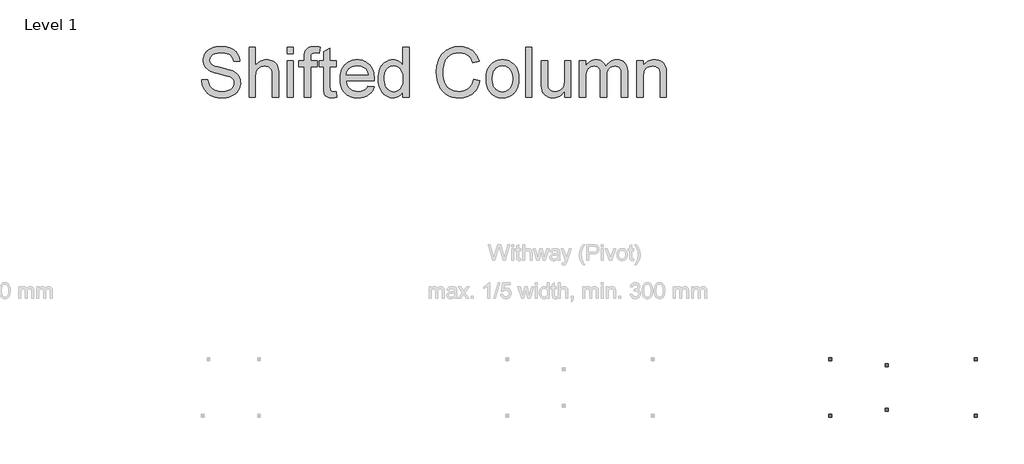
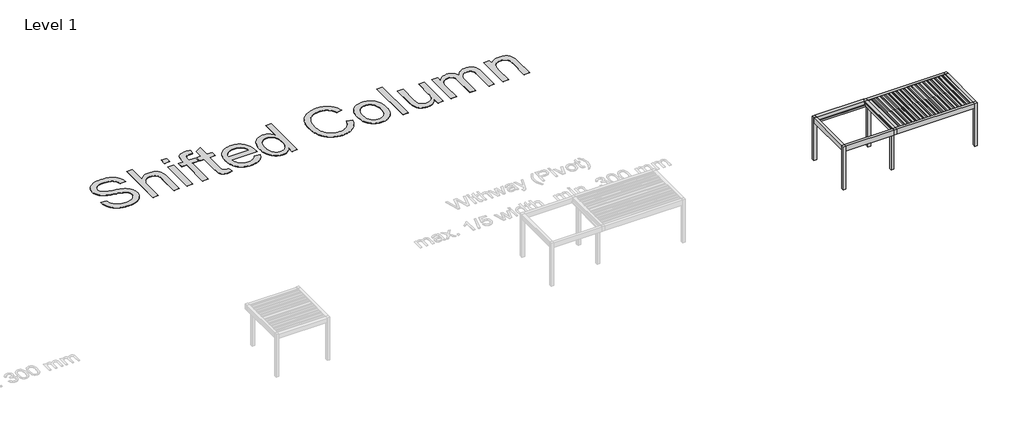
# One storey, part 78 of 80: 2 proxies.
"""IFC4 building model written with IfcOpenShell, lengths in millimetres."""

from ifc_helpers import new_model, si_unit, origin, origin_with_axes, place, context, project, spatial, polyline, outline, extrude, transform, mapped, element, save
from components import generic_models_daa4106b

model = new_model("IFC4")

# Units and contexts
model_context = context("Model", 3, world=origin())
ifc_project = project(units=[si_unit("LENGTHUNIT", "METRE", prefix="MILLI")], contexts=[model_context])

# Site, building, storey
site = spatial("IfcSite", under=ifc_project)
building = spatial("IfcBuilding", under=site)
storey = spatial("IfcBuildingStorey", under=building, Name="Level 1", Elevation=0.0)

# Proxies
placement = place(None, origin())
generic_models_shape = generic_models_daa4106b(model_context)
element("IfcBuildingElementProxy", 1, Name="Renson_Amani_Patio_Cover : Renson_Amani_Patio_Cover", ObjectType="Renson_Amani_Patio_Cover : Renson_Amani_Patio_Cover", at=placement, inside=storey, context=model_context, shape_type="MappedRepresentation", body=[
    mapped(generic_models_shape, transform((317473.165057, 68078.5861401, 0.0), x_axis=(1.0, 0.0, 0.0), y_axis=(0.0, 1.0, 0.0), z_axis=(0.0, 0.0, 1.0))),
])
element("IfcBuildingElementProxy", 2, Name="2500 mm Arial", ObjectType="2500 mm Arial", at=placement, inside=storey, context=model_context, shape_type="SweptSolid", body=[
    extrude(outline(polyline([(284304.1712696, 83605.179626), (284618.0972388, 83605.179626), (284632.4676293, 83513.8031034), (284654.1190175, 83430.9721729), (284683.0514036, 83356.6868346), (284719.2647875, 83290.9470885), (284764.5985792, 83232.4308586), (284820.8921887, 83179.8160691), (284888.1456159, 83133.1027199), (284966.3588609, 83092.2908111), (285052.6578456, 83059.162271), (285144.1684919, 83035.4990281), (285240.8907998, 83021.3010823), (285342.8247693, 83016.5684337), (285432.9941792, 83020.1514511), (285517.7220012, 83030.9005031), (285597.0082354, 83048.8155899), (285670.8528817, 83073.8967113), (285737.4356907, 83105.243323), (285794.936413, 83141.9548804), (285843.3550485, 83184.0313836), (285882.6915972, 83231.4728326), (285913.1376644, 83282.2290516), (285934.8848553, 83334.249865), (285947.9331698, 83387.5352727), (285952.282608, 83442.0852748), (285949.0253195, 83496.4053507), (285939.253454, 83547.1615697), (285922.9670115, 83594.3539319), (285900.165992, 83637.9824373), (285867.2865387, 83678.277012), (285820.7647947, 83715.4675825), (285760.6007601, 83749.5541486), (285686.7944348, 83780.5367104), (285619.5984891, 83802.5138275), (285521.0176107, 83829.8175693), (285229.7010558, 83900.4049272), (285066.1660126, 83940.5462178), (284929.6473035, 83979.7294824), (284820.1449284, 84017.9547209), (284737.6588873, 84055.2219335), (284653.8316097, 84105.2308922), (284581.3856814, 84160.8347229), (284520.3211023, 84222.0334256), (284470.6378724, 84288.8270004), (284432.1443866, 84360.5256684), (284404.6490395, 84436.439651), (284388.1518313, 84516.568948), (284382.6527619, 84600.9135596), (284384.3532581, 84648.0436501), (284389.4547467, 84694.3977396), (284397.9572277, 84739.9758279), (284409.8607011, 84784.7779151), (284425.1651669, 84828.8040013), (284443.8706252, 84872.0540864), (284465.9770758, 84914.5281704), (284491.4845188, 84956.2262533), (284520.2588306, 84996.2909018), (284552.1658875, 85033.8646827), (284587.2056895, 85068.9475959), (284625.3782366, 85101.5396414), (284666.6835289, 85131.6408192), (284711.1215662, 85159.2511294), (284758.6923487, 85184.3705719), (284809.3958763, 85206.9991467), (284916.8863968, 85244.4196434), (285030.2783576, 85271.1485696), (285149.5717587, 85287.1859253), (285274.7666002, 85292.5317106), (285411.3427909, 85286.9368386), (285539.6416367, 85270.1522225), (285600.6870553, 85257.5637605), (285659.6631377, 85242.1778625), (285716.5698838, 85223.9945284), (285771.4072937, 85203.0137584), (285823.6580333, 85179.3217747), (285872.8047686, 85153.0047997), (285918.8474996, 85124.0628333), (285961.7862262, 85092.4958757), (286001.6209485, 85058.3039267), (286038.3516664, 85021.4869864), (286071.9783801, 84982.0450548), (286102.5010894, 84939.9781319), (286129.7952509, 84895.8801937), (286153.7363214, 84850.3452166), (286174.3243008, 84803.3732004), (286191.559189, 84754.9641451), (286205.4409862, 84705.1180508), (286215.9696922, 84653.8349175), (286223.1453072, 84601.1147451), (286226.9678311, 84546.9575337), (285913.0418618, 84546.9575337), (285904.4962697, 84598.6717787), (285892.0419313, 84647.1287353), (285875.6788467, 84692.3284033), (285855.4070159, 84734.2707829), (285831.226439, 84772.9558739), (285803.1371158, 84808.3836765), (285771.1390464, 84840.5541906), (285735.2322308, 84869.4674161), (285695.1005205, 84895.0467111), (285650.4277667, 84917.2154334), (285601.2139696, 84935.9735831), (285547.4591291, 84951.32116), (285489.1632453, 84963.2581644), (285426.326318, 84971.784596), (285358.9483474, 84976.900455), (285287.0293334, 84978.6057413), (285212.5428096, 84976.9196155), (285143.287108, 84971.8612381), (285079.2622284, 84963.430609), (285020.468171, 84951.6277284), (284966.9049358, 84936.4525961), (284918.5725226, 84917.9052121), (284875.4709315, 84895.9855766), (284837.6001626, 84870.6936894), (284804.5482646, 84843.0163174), (284775.9032863, 84813.9402275), (284751.6652278, 84783.4654195), (284731.834089, 84751.5918935), (284716.4098699, 84718.3196495), (284705.3925706, 84683.6486875), (284698.782191, 84647.5790075), (284696.5787311, 84610.1106095), (284698.1403136, 84577.73891), (284702.8250608, 84546.8425706), (284710.632973, 84517.4215912), (284721.56405, 84489.4759719), (284735.6182918, 84463.0057127), (284752.7956985, 84438.0108136), (284773.0962701, 84414.4912746), (284796.5200065, 84392.4470957), (284825.9888871, 84370.9298311), (284865.3445964, 84349.2976033), (284914.5871343, 84327.5504125), (284973.7165008, 84305.6882585), (285121.6357197, 84261.6190612), (285309.1022531, 84217.0900113), (285499.2512593, 84173.6722717), (285655.2178969, 84132.9370049), (285777.0021657, 84094.8842111), (285864.6040658, 84059.5138901), (285960.8473607, 84005.9027535), (286003.8962603, 83976.5967372), (286043.563328, 83945.6237557), (286079.8485639, 83912.9838089), (286112.7519679, 83878.6768968), (286142.27354, 83842.7030194), (286168.4132802, 83805.0621767), (286191.3340529, 83765.8501714), (286211.1987226, 83725.1628059), (286228.0072893, 83683.0000804), (286241.7597529, 83639.3619947), (286252.4561136, 83594.248549), (286260.0963711, 83547.6597432), (286266.2085772, 83450.0560514), (286264.4505994, 83400.5979576), (286259.1766662, 83351.8583834), (286250.3867773, 83303.8373287), (286238.080933, 83256.5347935), (286222.2591331, 83209.9507778), (286202.9213777, 83164.0852817), (286180.0676668, 83118.9383051), (286153.6980004, 83074.509848), (286124.0279342, 83031.666924), (286091.2730243, 82991.2765466), (286055.4332705, 82953.3387158), (286016.508673, 82917.8534317), (285974.4992316, 82884.8206942), (285929.4049464, 82854.2405034), (285881.2258174, 82826.1128592), (285829.9618446, 82800.4377616), (285776.3363376, 82777.5169888), (285721.0726061, 82757.6523191), (285664.1706501, 82740.8437524), (285605.6304696, 82727.0912888), (285545.4520646, 82716.3949282), (285483.6354351, 82708.7546706), (285355.0875025, 82702.6424645), (285273.0948448, 82704.2902693), (285194.5031795, 82709.2336836), (285119.3125066, 82717.4727075), (285047.5228261, 82729.0073408), (284979.134138, 82743.8375838), (284914.1464423, 82761.9634362), (284852.5597391, 82783.3848983), (284794.3740282, 82808.1019698), (284739.4072848, 82836.1338114), (284687.4774838, 82867.4995836), (284638.5846255, 82902.1992864), (284592.7287096, 82940.2329197), (284549.9097362, 82981.6004837), (284510.1277053, 83026.3019782), (284473.382617, 83074.3374033), (284439.6744712, 83125.706759), (284409.3912684, 83179.6053034), (284382.9210092, 83235.2282946), (284360.2636936, 83292.5757327), (284341.4193216, 83351.6476177), (284326.3878932, 83412.4439495), (284315.1694084, 83474.9647281), (284307.7638672, 83539.2099537), (284304.1712696, 83605.179626)])), origin_with_axes(), (0.0, 0.0, 1.0), 5.0),
    extrude(outline(polyline([(286697.8567849, 82741.8832107), (286697.8567849, 85253.2909644), (287011.7827541, 85253.2909644), (287011.7827541, 84329.9071565), (287067.6644124, 84399.1724384), (287127.090767, 84459.2023494), (287190.0618179, 84509.9968895), (287256.5775651, 84551.5560586), (287326.6380086, 84583.8798568), (287400.2431484, 84606.9682841), (287477.3929845, 84620.8213405), (287558.0875169, 84625.439026), (287656.2277034, 84620.3998091), (287747.7000286, 84605.2821583), (287832.5044927, 84580.0860738), (287910.6410957, 84544.8115554), (287980.1171433, 84500.6465554), (288010.8601986, 84475.675607), (288038.9399415, 84448.7790262), (288064.356372, 84419.9568131), (288087.1094902, 84389.2089677), (288107.199296, 84356.53549), (288124.6257895, 84321.93638), (288139.7146995, 84284.3721794), (288152.7917548, 84242.80343), (288172.9103014, 84147.6522847), (288184.9814293, 84036.4829443), (288189.0051387, 83909.2954087), (288189.0051387, 82741.8832107), (287875.0791695, 82741.8832107), (287875.0791695, 83876.7991658), (287873.517587, 83931.7323783), (287868.8328397, 83982.7951657), (287861.0249276, 84029.9875278), (287850.0938506, 84073.3094649), (287836.0396088, 84112.7609768), (287818.8622021, 84148.3420635), (287798.5616305, 84180.052725), (287775.1378941, 84207.8929615), (287748.8496599, 84232.1789213), (287719.9555948, 84253.2267532), (287688.455699, 84271.036457), (287654.3499723, 84285.6080329), (287617.6384149, 84296.9414809), (287578.3210267, 84305.0368008), (287536.3978076, 84309.8939928), (287491.8687578, 84311.5130568), (287424.519528, 84307.1444581), (287359.2013133, 84294.038662), (287295.9141138, 84272.1956685), (287234.6579295, 84241.6154777), (287178.7475305, 84203.5626838), (287131.4976867, 84159.3018813), (287092.9083982, 84108.83307), (287062.9796651, 84052.1562502), (287040.5810165, 83986.6655908), (287024.5819819, 83909.7552612), (287014.982561, 83821.4252613), (287011.7827541, 83721.6755912), (287011.7827541, 82741.8832107), (286697.8567849, 82741.8832107)])), origin_with_axes(), (0.0, 0.0, 1.0), 5.0),
    extrude(outline(polyline([(288620.6533463, 84939.3649952), (288620.6533463, 85253.2909644), (288934.5793156, 85253.2909644), (288934.5793156, 84939.3649952), (288620.6533463, 84939.3649952)])), origin_with_axes(), (0.0, 0.0, 1.0), 5.0),
    extrude(outline(polyline([(288620.6533463, 82741.8832107), (288620.6533463, 84586.1982798), (288934.5793156, 84586.1982798), (288934.5793156, 82741.8832107), (288620.6533463, 82741.8832107)])), origin_with_axes(), (0.0, 0.0, 1.0), 5.0),
    extrude(outline(polyline([(289483.9497617, 82741.8832107), (289483.9497617, 84272.2723106), (289209.2645386, 84272.2723106), (289209.2645386, 84586.1982798), (289483.9497617, 84586.1982798), (289483.9497617, 84771.9786874), (289486.0190979, 84854.5605311), (289492.2271066, 84925.7227045), (289502.5737877, 84985.4652077), (289517.0591413, 85033.7880406), (289544.3437226, 85088.7020926), (289580.2122171, 85138.1745568), (289624.6646248, 85182.2054331), (289677.7009458, 85220.7947215), (289707.7254816, 85237.6080783), (289740.4708112, 85252.1796542), (289814.1238524, 85274.5974633), (289898.6600692, 85288.0481487), (289994.0794617, 85292.5317106), (290060.489826, 85290.3857323), (290130.349084, 85283.9477973), (290203.6572358, 85273.2179058), (290280.4142812, 85258.1960577), (290234.4290319, 84963.8904615), (290141.3855439, 84974.9269214), (290053.5537176, 84978.6057413), (289988.7719975, 84975.3484528), (289934.2219954, 84965.5765874), (289889.9037113, 84949.2901449), (289855.8171451, 84926.4891254), (289830.4677764, 84894.7976243), (289812.3610845, 84851.8397372), (289801.4970693, 84797.6154639), (289797.8757309, 84732.1248046), (289797.8757309, 84586.1982798), (290151.0424463, 84586.1982798), (290151.0424463, 84272.2723106), (289797.8757309, 84272.2723106), (289797.8757309, 82741.8832107), (289483.9497617, 82741.8832107)])), origin_with_axes(), (0.0, 0.0, 1.0), 5.0),
    extrude(outline(polyline([(291092.8203539, 83003.6925639), (291132.0611001, 82732.6861608), (291007.7476425, 82710.1533886), (290950.7642543, 82704.5201955), (290897.2297598, 82702.6424645), (290817.1004628, 82705.899753), (290746.551426, 82715.6716185), (290685.5826495, 82731.958061), (290634.1941333, 82754.7590805), (290591.0446409, 82782.8484037), (290554.792936, 82814.9997572), (290525.4390185, 82851.2131411), (290502.9828883, 82891.4885554), (290486.3515565, 82945.4829024), (290474.4720337, 83022.8530845), (290467.34432, 83123.5991017), (290464.9684155, 83247.720954), (290464.9684155, 84272.2723106), (290229.5239386, 84272.2723106), (290229.5239386, 84586.1982798), (290464.9684155, 84586.1982798), (290464.9684155, 85034.4011773), (290778.8943847, 85218.9553115), (290778.8943847, 84586.1982798), (291092.8203539, 84586.1982798), (291092.8203539, 84272.2723106), (290778.8943847, 84272.2723106), (290778.8943847, 83256.9180039), (290783.0330572, 83153.6044769), (290788.2063977, 83118.7323295), (290795.4490745, 83095.049926), (290805.0101743, 83077.9012601), (290817.1387838, 83062.6303252), (290849.0985321, 83037.7216485), (290869.6960918, 83028.467117), (290894.3940028, 83021.8567374), (290956.0908791, 83016.5684337), (291016.0249874, 83013.3494663), (291092.8203539, 83003.6925639)])), origin_with_axes(), (0.0, 0.0, 1.0), 5.0),
    extrude(outline(polyline([(292698.0121262, 83291.2536568), (293005.8067288, 83252.0129107), (292984.2750938, 83188.5436862), (292958.6143667, 83128.7341212), (292928.8245473, 83072.5842157), (292894.9056357, 83020.0939695), (292856.857632, 82971.2633828), (292814.680536, 82926.0924555), (292768.3743479, 82884.5811877), (292717.9390676, 82846.7295793), (292663.6237819, 82812.9591618), (292605.6775775, 82783.6914666), (292544.1004545, 82758.9264937), (292478.8924128, 82738.6642432), (292410.0534525, 82722.904715), (292337.5835735, 82711.6479092), (292261.4827759, 82704.8938257), (292181.7510597, 82702.6424645), (292081.7044014, 82706.5272601), (291986.9652074, 82718.1816467), (291897.5334776, 82737.6056245), (291813.409212, 82764.7991933), (291734.5924106, 82799.7623532), (291661.0830734, 82842.4951042), (291592.8812003, 82892.9974464), (291529.9867915, 82951.2693796), (291473.5111571, 83016.5540633), (291424.5656073, 83088.0946571), (291383.1501421, 83165.8911608), (291349.2647614, 83249.9435744), (291322.9094653, 83340.2518981), (291304.0842539, 83436.8161317), (291292.789127, 83539.6362752), (291289.0240847, 83648.7123288), (291292.827448, 83761.5007332), (291304.237538, 83867.7937211), (291323.2543547, 83967.5912926), (291349.8778981, 84060.8934475), (291384.1081681, 84147.700186), (291425.9451648, 84228.0115081), (291475.3888881, 84301.8274136), (291532.4393382, 84369.1479027), (291595.554093, 84429.2161347), (291663.1907306, 84481.2752691), (291735.3492511, 84525.3253059), (291812.0296545, 84561.3662452), (291893.2319407, 84589.3980868), (291978.9561098, 84609.4208308), (292069.2021618, 84621.4344772), (292163.9700966, 84625.439026), (292255.6388171, 84621.4440574), (292343.0251614, 84609.4591518), (292426.1291293, 84589.4843091), (292504.9507208, 84561.5195293), (292579.489936, 84525.5648124), (292649.7467749, 84481.6201585), (292715.7212374, 84429.6855675), (292777.4133235, 84369.7610393), (292833.2422904, 84302.5938344), (292881.627395, 84228.9312131), (292922.5686373, 84148.7731752), (292956.0660174, 84062.1197209), (292982.1195353, 83968.9708501), (293000.7291909, 83869.3265628), (293011.8949843, 83763.186859), (293015.6169154, 83650.5517388), (293013.7775054, 83565.9388799), (291602.9500539, 83565.9388799), (291609.7951499, 83501.3583452), (291621.1333879, 83440.6673963), (291636.9647681, 83383.866033), (291657.2892903, 83330.9542555), (291682.1069546, 83281.9320635), (291711.4177609, 83236.7994573), (291745.2217094, 83195.5564368), (291783.5187999, 83158.2030019), (291825.3126854, 83125.0074), (291869.6070189, 83096.2378783), (291916.4018002, 83071.8944369), (291965.6970296, 83051.9770758), (292017.4927068, 83036.4857949), (292071.788832, 83025.4205942), (292128.5854052, 83018.7814739), (292187.8824262, 83016.5684337), (292274.7179055, 83020.6687851), (292354.9621657, 83032.9698394), (292428.6152068, 83053.4715964), (292495.6770289, 83082.1740562), (292556.1476318, 83119.8436397), (292610.0270157, 83167.2467676), (292657.3151805, 83224.38344), (292698.0121262, 83291.2536568)]), holes=[polyline([(291602.9500539, 83879.8648491), (292701.6909462, 83879.8648491), (292685.5577878, 83968.6930225), (292673.6686848, 84008.681029), (292659.2312326, 84045.7183152), (292642.2454311, 84079.8048814), (292622.7112803, 84110.9407273), (292600.6287804, 84139.1258531), (292575.9979312, 84164.3602587), (292534.6686883, 84198.8491957), (292490.3887252, 84228.7396078), (292443.158042, 84254.031495), (292392.9766386, 84274.7248572), (292339.844515, 84290.8196945), (292283.7616712, 84302.3160069), (292224.7281073, 84309.2137943), (292162.7438232, 84311.5130568), (292106.4071026, 84309.6784369), (292052.3600642, 84304.1745774), (292000.6027079, 84295.0014781), (291951.1350339, 84282.1591392), (291903.9570421, 84265.6475606), (291859.0687325, 84245.4667423), (291816.4701051, 84221.6166843), (291776.16116, 84194.0973866), (291739.1861454, 84163.5028254), (291706.5893097, 84130.4269767), (291678.3706531, 84094.8698407), (291654.5301753, 84056.8314172), (291635.0678765, 84016.3117063), (291619.9837567, 83973.310708), (291609.2778158, 83927.8284222), (291602.9500539, 83879.8648491)])]), origin_with_axes(), (0.0, 0.0, 1.0), 5.0),
    extrude(outline(polyline([(294467.524523, 82741.8832107), (294467.524523, 83038.0282168), (294423.0433745, 82959.4221811), (294373.5996511, 82891.2969502), (294319.1933529, 82833.652524), (294259.8244799, 82786.4889026), (294195.4930321, 82749.8060859), (294126.1990094, 82723.604074), (294051.9424119, 82707.8828669), (293972.7232395, 82702.6424645), (293920.3766973, 82704.5393561), (293869.1031442, 82710.2300307), (293818.9025803, 82719.7144884), (293769.7750055, 82732.9927291), (293721.7204199, 82750.064753), (293674.7388234, 82770.9305599), (293628.8302161, 82795.5901499), (293583.9945979, 82824.0435229), (293540.9409082, 82855.8930983), (293500.3780861, 82890.7412951), (293462.3061317, 82928.5881134), (293426.725045, 82969.4335531), (293393.634826, 83013.2776143), (293363.0354746, 83060.120297), (293334.9269909, 83109.9616012), (293309.3093749, 83162.8015268), (293286.4604541, 83218.1514807), (293266.6580561, 83275.5228694), (293249.9021808, 83334.9156931), (293236.1928283, 83396.3299517), (293225.5299986, 83459.7656452), (293217.9136917, 83525.2227736), (293211.8206461, 83662.2013353), (293217.4346787, 83796.6698687), (293234.2767763, 83924.7771093), (293262.3469389, 84046.5230571), (293301.6451666, 84161.9077121), (293325.5000148, 84216.3714918), (293352.1522989, 84267.5588225), (293381.602019, 84315.4697043), (293413.8491752, 84360.104137), (293448.8937673, 84401.4621206), (293486.7357955, 84439.5436553), (293527.3752596, 84474.3487409), (293570.8121598, 84505.8773775), (293616.3040258, 84533.8996389), (293663.1083874, 84558.1855987), (293711.2252447, 84578.7352571), (293760.6545977, 84595.5486139), (293811.3964463, 84608.6256692), (293863.4507906, 84617.966423), (293916.8176306, 84623.5708752), (293971.4969662, 84625.439026), (294050.5149531, 84620.0932407), (294125.0876992, 84604.055885), (294195.2152045, 84577.3269588), (294260.8974691, 84539.9064621), (294321.4063931, 84493.9403732), (294376.0138767, 84441.5746705), (294424.71992, 84382.8093538), (294467.524523, 84317.6444233), (294467.524523, 85253.2909644), (294781.4504922, 85253.2909644), (294781.4504922, 82741.8832107), (294467.524523, 82741.8832107)]), holes=[polyline([(293525.7466154, 83663.4276086), (293527.9596555, 83584.749721), (293534.5987759, 83511.1972726), (293545.6639765, 83442.7702634), (293561.1552574, 83379.4686936), (293581.0726185, 83321.2925629), (293605.4160599, 83268.2418716), (293634.1855816, 83220.3166195), (293667.3811835, 83177.5168066), (293703.5849871, 83139.7945317), (293741.379114, 83107.1018935), (293780.7635641, 83079.4388919), (293821.7383373, 83056.805527), (293864.3034338, 83039.2017987), (293908.4588535, 83026.627707), (293954.2045964, 83019.0832521), (294001.5406625, 83016.5684337), (294049.2168278, 83018.9682889), (294095.0631634, 83026.1678546), (294139.0796693, 83038.1671306), (294181.2663455, 83054.966117), (294221.623192, 83076.5648138), (294260.1502088, 83102.963221), (294296.8473958, 83134.1613387), (294331.7147531, 83170.1591667), (294363.5451679, 83211.0908288), (294391.1315275, 83257.0904486), (294414.4738317, 83308.1580261), (294433.5720805, 83364.2935613), (294448.4262741, 83425.4970541), (294459.0364124, 83491.7685047), (294465.4024954, 83563.107913), (294467.524523, 83639.5152789), (294465.3641743, 83723.3904578), (294458.8831282, 83801.4983199), (294448.0813848, 83873.8388654), (294432.9589439, 83940.4120941), (294413.5158056, 84001.2180062), (294389.75197, 84056.2566016), (294361.6674369, 84105.5278802), (294329.2622065, 84149.0318422), (294293.6954902, 84187.1133769), (294256.1264994, 84220.1173736), (294216.5552343, 84248.0438323), (294174.9816948, 84270.8927531), (294131.4058808, 84288.664136), (294085.8277925, 84301.3579809), (294038.2474298, 84308.9742878), (293988.6647926, 84311.5130568), (293940.1790953, 84309.0748805), (293893.7435737, 84301.7603518), (293849.3582277, 84289.5694706), (293807.0230575, 84272.5022369), (293766.738063, 84250.5586507), (293728.5032442, 84223.738712), (293692.318601, 84192.0424208), (293658.1841336, 84155.4697771), (293627.1440903, 84113.6471508), (293600.2427194, 84066.2009117), (293577.4800209, 84013.1310599), (293558.8559949, 83954.4375952), (293544.3706414, 83890.1205177), (293534.0239603, 83820.1798275), (293527.8159516, 83744.6155244), (293525.7466154, 83663.4276086)])]), origin_with_axes(), (0.0, 0.0, 1.0), 5.0),
    extrude(outline(polyline([(298038.4324229, 83634.6101856), (298352.3583921, 83553.6761467), (298323.8762782, 83452.9828209), (298290.2399844, 83358.4496025), (298251.4495104, 83270.0764914), (298207.5048565, 83187.8634877), (298158.4060225, 83111.8105914), (298104.1530085, 83041.9178025), (298044.7458144, 82978.1851209), (297980.1844403, 82920.6125467), (297911.1682452, 82869.5258087), (297838.396588, 82825.2506357), (297761.8694688, 82787.7870279), (297681.5868875, 82757.1349851), (297597.5488443, 82733.2945073), (297509.755339, 82716.2655947), (297418.2063716, 82706.0482471), (297322.9019422, 82702.6424645), (297224.843188, 82705.2195545), (297131.4691811, 82712.9508246), (297042.7799215, 82725.8362747), (296958.7754091, 82743.8759048), (296879.455644, 82767.069715), (296804.8206262, 82795.4177052), (296734.8703557, 82828.9198754), (296669.6048325, 82867.5762257), (296608.5594139, 82911.1185087), (296551.2694574, 82959.2784772), (296497.7349629, 83012.0561311), (296447.9559304, 83069.4514705), (296401.9323599, 83131.4644954), (296359.6642515, 83198.0952057), (296321.1516052, 83269.3436015), (296286.3944208, 83345.2096828), (296255.5699334, 83424.1031263), (296228.8553775, 83504.4336088), (296206.2507534, 83586.2011304), (296187.7560609, 83669.405691), (296173.3713001, 83754.0472907), (296163.0964709, 83840.1259294), (296156.9315734, 83927.6416072), (296154.8766076, 84016.594324), (296157.1998207, 84112.8280386), (296164.16946, 84205.9385884), (296175.7855256, 84295.9259733), (296192.0480175, 84382.7901933), (296212.9569356, 84466.5312485), (296238.5122799, 84547.1491389), (296268.7140505, 84624.6438644), (296303.5622473, 84699.015425), (296342.6928204, 84769.6363137), (296385.7417201, 84835.8790235), (296432.7089461, 84897.7435544), (296483.5944987, 84955.2299062), (296538.3983777, 85008.3380792), (296597.1205831, 85057.0680731), (296659.761115, 85101.4198881), (296726.3199734, 85141.3935242), (296795.7002184, 85176.8165366), (296866.8049103, 85207.5164807), (296939.634049, 85233.4933565), (297014.1876346, 85254.747164), (297090.4656671, 85271.2779031), (297168.4681464, 85283.0855739), (297248.1950725, 85290.1701764), (297329.6464455, 85292.5317106), (297421.2864253, 85289.4756075), (297509.1996839, 85280.3072984), (297593.3862212, 85265.0267833), (297673.8460372, 85243.634062), (297750.579132, 85216.1291347), (297823.5855056, 85182.5120014), (297892.8651579, 85142.782662), (297958.4180889, 85096.9411165), (298019.6886436, 85045.5526003), (298076.1211669, 84989.1823487), (298127.7156587, 84927.8303618), (298174.472119, 84861.4966396), (298216.3905479, 84790.1811819), (298253.4709454, 84713.883989), (298285.7133114, 84632.6050607), (298313.1176459, 84546.344397), (297999.1916767, 84471.5417247), (297975.720039, 84535.5139128), (297949.7575336, 84594.9929588), (297921.3041605, 84649.9788627), (297890.3599198, 84700.4716246), (297856.9248114, 84746.4712444), (297820.9988353, 84787.9777221), (297782.5819915, 84824.9910577), (297741.6742801, 84857.5112513), (297698.1607379, 84885.8927724), (297651.9264017, 84910.4900907), (297602.9712716, 84931.3032062), (297551.2953476, 84948.3321188), (297496.8986297, 84961.5768287), (297439.7811178, 84971.0373357), (297379.942812, 84976.7136399), (297317.3837123, 84978.6057413), (297245.4646983, 84976.5076643), (297176.553886, 84970.2134333), (297110.6512755, 84959.7230483), (297047.7568667, 84945.0365093), (296987.8706596, 84926.1538163), (296930.9926543, 84903.0749692), (296877.1228506, 84875.7999682), (296826.2612488, 84844.3288131), (296778.7383676, 84809.322542), (296734.8847261, 84771.4421928), (296694.7003243, 84730.6877655), (296658.1851622, 84687.0592602), (296625.3392398, 84640.5566767), (296596.1625571, 84591.1800152), (296570.6551141, 84538.9292756), (296548.8169107, 84483.8044578), (296513.8106396, 84369.7993604), (296488.8061603, 84254.031495), (296473.8034727, 84136.5008618), (296468.8025768, 84017.2074606), (296474.7231776, 83867.2955476), (296482.1239287, 83796.018411), (296492.4849802, 83727.1938211), (296505.8063322, 83660.8217778), (296522.0879845, 83596.9022811), (296541.3299373, 83535.4353311), (296563.5321905, 83476.4209277), (296588.8623987, 83420.4578372), (296617.4882165, 83368.1448259), (296649.4096438, 83319.4818938), (296684.6266806, 83274.4690408), (296723.139327, 83233.106267), (296764.9475829, 83195.3935723), (296810.0514483, 83161.3309569), (296858.4509233, 83130.9184206), (296909.010747, 83104.1176424), (296960.5956586, 83080.8903013), (297013.205658, 83061.2363973), (297066.8407452, 83045.1559304), (297121.5009203, 83032.6489006), (297177.1861832, 83023.7153079), (297233.896534, 83018.3551523), (297291.6319727, 83016.5684337), (297361.2373538, 83019.0018199), (297428.1123608, 83026.3019782), (297492.2569935, 83038.4689088), (297553.6712521, 83055.5026116), (297612.3551366, 83077.4030866), (297668.3086468, 83104.1703338), (297721.5317828, 83135.8043533), (297772.0245447, 83172.305145), (297819.1737957, 83213.5960669), (297862.3663992, 83259.6004768), (297901.6023553, 83310.3183748), (297936.8816638, 83365.7497608), (297968.2043248, 83425.8946349), (297995.5703383, 83490.7529971), (298018.9797043, 83560.3248473), (298038.4324229, 83634.6101856)])), origin_with_axes(), (0.0, 0.0, 1.0), 5.0),
    extrude(outline(polyline([(298666.2843613, 83664.0407452), (298670.5284166, 83787.5973622), (298683.2605825, 83902.8957948), (298704.4808591, 84009.9360431), (298734.1892462, 84108.7181069), (298772.385744, 84199.2419864), (298819.0703524, 84281.5076815), (298874.2430714, 84355.5151923), (298937.9039011, 84421.2645187), (298996.1710442, 84469.1179188), (299057.5421916, 84510.5908656), (299122.0173433, 84545.6833591), (299189.5964994, 84574.3953991), (299260.2796599, 84596.7269859), (299334.0668246, 84612.6781193), (299410.9579937, 84622.2487993), (299490.9531672, 84625.439026), (299579.6232663, 84621.5542304), (299664.1451127, 84609.8998438), (299744.5187064, 84590.475866), (299820.7440474, 84563.2822972), (299892.8211357, 84528.3191373), (299960.7499713, 84485.5863862), (300024.5305542, 84435.0840441), (300084.1628844, 84376.8121109), (300138.1237005, 84311.6902916), (300184.8897411, 84240.6382911), (300224.4610062, 84163.6561096), (300256.8374959, 84080.7437469), (300282.01921, 83991.9012031), (300300.0061487, 83897.1284781), (300310.798312, 83796.4255721), (300314.3956997, 83689.7924849), (300312.8053765, 83603.4072779), (300308.0344069, 83521.7547194), (300300.0827908, 83444.8348095), (300288.9505284, 83372.6475482), (300274.6376195, 83305.1929355), (300257.1440642, 83242.4709714), (300236.4698625, 83184.4816559), (300212.6150144, 83131.2249889), (300185.7184336, 83081.7573149), (300155.919034, 83035.1349782), (300123.2168155, 82991.3579788), (300087.6117781, 82950.4263167), (300049.1039218, 82912.3399919), (300007.6932467, 82877.0990044), (299963.3797528, 82844.7033542), (299916.1634399, 82815.1530414), (299866.9352724, 82788.7833749), (299816.5862145, 82765.929664), (299765.116266, 82746.5919086), (299712.5254272, 82730.7701087), (299658.8136978, 82718.4642644), (299603.9810781, 82709.6743756), (299548.0275678, 82704.4004423), (299490.9531672, 82702.6424645), (299400.88435, 82706.5128897), (299315.2320329, 82718.1241652), (299233.9962158, 82737.4762909), (299157.1768986, 82764.569267), (299084.7740815, 82799.4030935), (299016.7877643, 82841.9777702), (298953.2179472, 82892.2932972), (298894.06463, 82950.3496746), (298840.6786295, 83015.6870498), (298794.4107624, 83087.8455703), (298755.2610288, 83166.8252361), (298723.2294285, 83252.6260473), (298698.3159616, 83345.2480038), (298680.5206281, 83444.6911056), (298669.843428, 83550.9553528), (298666.2843613, 83664.0407452)]), holes=[polyline([(298980.2103305, 83664.6538819), (298982.4808522, 83585.966414), (298989.2924173, 83512.3852248), (299000.6450257, 83443.9103144), (299016.5386775, 83380.5416827), (299036.9733727, 83322.2793298), (299061.9491113, 83269.1232555), (299091.4658933, 83221.07346), (299125.5237186, 83178.1299433), (299163.0208574, 83140.2639645), (299202.8555797, 83107.4467829), (299245.0278855, 83079.6783984), (299289.5377748, 83056.9588111), (299336.3852476, 83039.288021), (299385.570304, 83026.6660281), (299437.0929438, 83019.0928323), (299490.9531672, 83016.5684337), (299544.5259827, 83019.1072027), (299595.7995358, 83026.7235096), (299644.7738264, 83039.4173545), (299691.4488545, 83057.1887374), (299735.8246202, 83080.0376582), (299777.9011234, 83107.9641169), (299817.6783641, 83140.9681136), (299855.1563424, 83179.0496483), (299889.2141677, 83222.3332643), (299918.7309497, 83270.943505), (299943.7066883, 83324.8803704), (299964.1413835, 83384.1438606), (299980.0350353, 83448.7339755), (299991.3876437, 83518.6507151), (299998.1992088, 83593.8940794), (300000.4697305, 83674.4640684), (299998.1848384, 83750.5648661), (299991.3301622, 83821.9042743), (299979.9057018, 83888.4822932), (299963.9114572, 83950.2989227), (299943.3474285, 84007.3541629), (299918.2136156, 84059.6480137), (299888.5100186, 84107.1804751), (299854.2366374, 84149.9515472), (299816.5718441, 84187.817526), (299776.6940106, 84220.6347076), (299734.603137, 84248.4030921), (299690.2992233, 84271.1226794), (299643.7822695, 84288.7934695), (299595.0522755, 84301.4154624), (299544.1092414, 84308.9886582), (299490.9531672, 84311.5130568), (299437.0929438, 84308.9982384), (299385.570304, 84301.4537835), (299336.3852476, 84288.8796918), (299289.5377748, 84271.2759635), (299245.0278855, 84248.6425986), (299202.8555797, 84220.979597), (299163.0208574, 84188.2869588), (299125.5237186, 84150.5646839), (299091.4658933, 84107.764871), (299061.9491113, 84059.8396189), (299036.9733727, 84006.7889276), (299016.5386775, 83948.6127969), (299000.6450257, 83885.3112271), (298989.2924173, 83816.8842179), (298982.4808522, 83743.3317695), (298980.2103305, 83664.6538819)])]), origin_with_axes(), (0.0, 0.0, 1.0), 5.0),
    extrude(outline(polyline([(300667.5624151, 82741.8832107), (300667.5624151, 85253.2909644), (300981.4883843, 85253.2909644), (300981.4883843, 82741.8832107), (300667.5624151, 82741.8832107)])), origin_with_axes(), (0.0, 0.0, 1.0), 5.0),
    extrude(outline(polyline([(302629.5997227, 82741.8832107), (302629.5997227, 83058.8748632), (302575.1455232, 82975.3828947), (302516.0161567, 82903.0231888), (302452.2116231, 82841.7957452), (302383.7319226, 82791.7005642), (302310.577055, 82752.7376456), (302232.7470204, 82724.9069894), (302150.2418188, 82708.2085958), (302063.0614501, 82702.6424645), (301985.2888971, 82706.5512107), (301910.1604959, 82718.2774493), (301837.6762465, 82737.8211803), (301767.836149, 82765.1824037), (301703.7250471, 82798.4450674), (301648.4277847, 82835.6931194), (301601.9443618, 82876.9265597), (301564.2747783, 82922.1453883), (301533.4838217, 82972.0010629), (301507.6362795, 83027.1450411), (301486.7321515, 83087.577323), (301470.7714379, 83153.2979086), (301462.7240192, 83206.0276613), (301456.975863, 83272.2464204), (301452.3773381, 83445.1509581), (301452.3773381, 84586.1982798), (301766.3033073, 84586.1982798), (301766.3033073, 83592.9168928), (301771.0551164, 83394.2606155), (301776.9948778, 83323.9031839), (301785.3105437, 83272.859557), (301804.1070144, 83216.2785398), (301831.0658669, 83166.0971364), (301866.1871011, 83122.3153468), (301909.4707171, 83084.9331712), (301959.6137995, 83055.0235985), (302015.3134328, 83033.6596181), (302076.5696171, 83020.8412298), (302143.3823524, 83016.5684337), (302212.1877818, 83020.9370324), (302278.8089119, 83034.0428285), (302343.2457426, 83055.885822), (302405.4982739, 83086.4660128), (302462.1942543, 83124.5762883), (302509.9614322, 83169.0095355), (302548.7998074, 83219.7657545), (302578.70938, 83276.8449453), (302600.9739049, 83343.8876068), (302616.877137, 83424.534238), (302626.4190763, 83518.7848387), (302629.5997227, 83626.6394091), (302629.5997227, 84586.1982798), (302943.5256919, 84586.1982798), (302943.5256919, 82741.8832107), (302629.5997227, 82741.8832107)])), origin_with_axes(), (0.0, 0.0, 1.0), 5.0),
    extrude(outline(polyline([(303375.1738996, 82741.8832107), (303375.1738996, 84586.1982798), (303689.0998688, 84586.1982798), (303689.0998688, 84282.6956338), (303732.9391399, 84356.1762302), (303783.5229142, 84422.1075816), (303840.8511918, 84480.4896878), (303904.9239726, 84531.3225489), (303974.7065886, 84572.4985076), (304049.1643716, 84601.9099067), (304128.2973216, 84619.5567462), (304212.1054386, 84625.439026), (304303.731048, 84619.441783), (304346.2961445, 84611.9452294), (304386.6961021, 84601.4500542), (304424.930921, 84587.9562576), (304461.000601, 84571.4638395), (304494.9051421, 84551.9727999), (304526.6445445, 84529.4831389), (304556.1709067, 84504.2918445), (304583.4363275, 84476.6959047), (304608.4408068, 84446.6953196), (304631.1843448, 84414.2900892), (304669.8885963, 84342.2656923), (304699.5490822, 84260.6227141), (304754.750542, 84346.1265372), (304813.9757111, 84420.2298505), (304877.2245896, 84482.9326541), (304944.4971773, 84534.234948), (305015.7934744, 84574.1367321), (305091.1134808, 84602.6380065), (305170.4571965, 84619.7387711), (305253.8246216, 84625.439026), (305318.582391, 84623.0679116), (305379.4984761, 84615.9545683), (305436.5728768, 84604.0989962), (305489.8055931, 84587.5011952), (305539.196625, 84566.1611654), (305584.7459726, 84540.0789068), (305626.4536358, 84509.2544193), (305664.3196146, 84473.687703), (305698.0181801, 84433.1871526), (305727.2236036, 84387.561163), (305751.935885, 84336.8097341), (305772.1550244, 84280.9328659), (305787.8810217, 84219.9305585), (305799.1138768, 84153.8028118), (305805.85359, 84082.5496259), (305808.100161, 84006.1710008), (305808.100161, 82741.8832107), (305494.1741918, 82741.8832107), (305494.1741918, 83871.2809359), (305492.3539423, 83955.9512763), (305486.893194, 84027.8607101), (305477.7919467, 84087.0092371), (305465.0502005, 84133.3968574), (305447.5374847, 84171.4688118), (305424.1233285, 84205.6703411), (305394.807732, 84236.0014451), (305359.5906952, 84262.4621241), (305319.7559729, 84283.9219071), (305276.5873201, 84299.2503236), (305230.0847366, 84308.4473735), (305180.2482226, 84311.5130568), (305134.7850974, 84309.5491034), (305091.2859255, 84303.6572433), (305049.750707, 84293.8374765), (305010.1794419, 84280.089803), (304972.5721301, 84262.4142228), (304936.9287717, 84240.8107358), (304903.2493666, 84215.2793421), (304871.5339149, 84185.8200417), (304842.7212821, 84152.0304637), (304817.7503337, 84113.5082371), (304796.6210696, 84070.2533619), (304779.3334899, 84022.2658381), (304765.8875946, 83969.5456657), (304756.2833836, 83912.0928447), (304750.5208571, 83849.9073752), (304748.6000149, 83782.989257), (304748.6000149, 82741.8832107), (304434.6740457, 82741.8832107), (304434.6740457, 83906.2297254), (304430.1330023, 84001.3425496), (304416.5098722, 84083.7327881), (304393.8046553, 84153.4004409), (304379.0462643, 84183.4632977), (304362.0173516, 84210.3455081), (304342.4017687, 84234.0566523), (304319.8833669, 84254.6063106), (304294.4621462, 84271.9944831), (304266.1381066, 84286.2211696), (304234.9112482, 84297.2863702), (304200.7815709, 84305.190085), (304163.7490748, 84309.9323138), (304123.8137598, 84311.5130568), (304062.1552045, 84307.2977422), (304002.8725538, 84294.6517986), (303945.9658077, 84273.575226), (303891.4349661, 84244.0680243), (303841.7708968, 84206.4367619), (303799.4644673, 84160.9880071), (303764.5156778, 84107.7217598), (303736.9245282, 84046.6380202), (303716.0012397, 83974.4794997), (303701.0560336, 83887.9889098), (303692.08891, 83787.1662505), (303689.0998688, 83672.0115218), (303689.0998688, 82741.8832107), (303375.1738996, 82741.8832107)])), origin_with_axes(), (0.0, 0.0, 1.0), 5.0),
    extrude(outline(polyline([(306278.9891148, 82741.8832107), (306278.9891148, 84586.1982798), (306592.915084, 84586.1982798), (306592.915084, 84328.6808832), (306644.7059712, 84398.2335729), (306701.9767672, 84458.5125707), (306764.7274721, 84509.5178765), (306832.9580859, 84551.2494903), (306906.6686086, 84583.7074122), (306985.8590401, 84606.8916421), (307070.5293806, 84620.80218), (307160.6796299, 84625.439026), (307239.6784563, 84621.7027245), (307315.4199942, 84610.4938199), (307387.9042435, 84591.8123124), (307457.1312044, 84565.6582018), (307520.4758854, 84533.4302061), (307575.3132953, 84496.5270435), (307621.6434341, 84454.9487138), (307659.4663017, 84408.6952172), (307690.5255056, 84357.824035), (307716.5646531, 84302.392649), (307737.5837441, 84242.401059), (307753.5827788, 84177.8492652), (307760.8254556, 84126.460749), (307765.9987962, 84058.7474692), (307770.1374686, 83874.3466192), (307770.1374686, 82741.8832107), (307456.2114994, 82741.8832107), (307456.2114994, 83832.0401897), (307453.950558, 83919.0672742), (307447.1677337, 83994.3681201), (307435.8630265, 84057.9427274), (307420.0364365, 84109.7910961), (307398.4808509, 84153.4579225), (307369.9891568, 84192.4879029), (307334.5613542, 84226.8810373), (307292.1974432, 84256.6373258), (307244.3536233, 84280.6454581), (307192.4860941, 84297.794124), (307136.5948556, 84308.0833236), (307076.6799077, 84311.5130568), (307028.1702597, 84309.5874244), (306981.3563178, 84303.8105275), (306936.238082, 84294.1823659), (306892.8155522, 84280.7029397), (306851.0887285, 84263.3722488), (306811.0576109, 84242.1902933), (306772.7221993, 84217.1570732), (306736.0824938, 84188.2725884), (306702.5276322, 84154.0039973), (306673.4467521, 84112.8184583), (306648.8398535, 84064.7159714), (306628.7069365, 84009.6965366), (306613.048001, 83947.7601538), (306601.8630472, 83878.9068231), (306595.1520748, 83803.1365444), (306592.915084, 83720.4493178), (306592.915084, 82741.8832107), (306278.9891148, 82741.8832107)])), origin_with_axes(), (0.0, 0.0, 1.0), 5.0),
])

save(model, "model.ifc")
